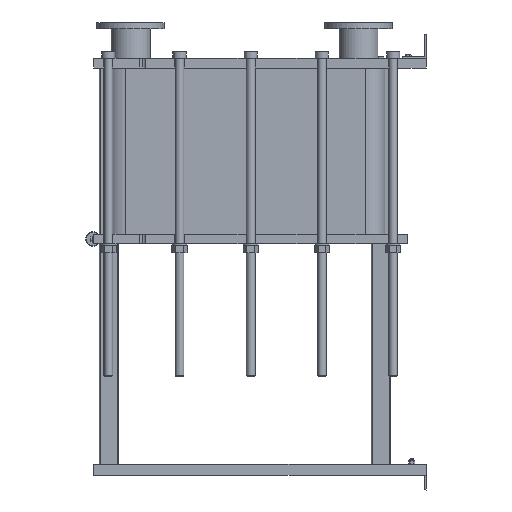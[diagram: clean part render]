
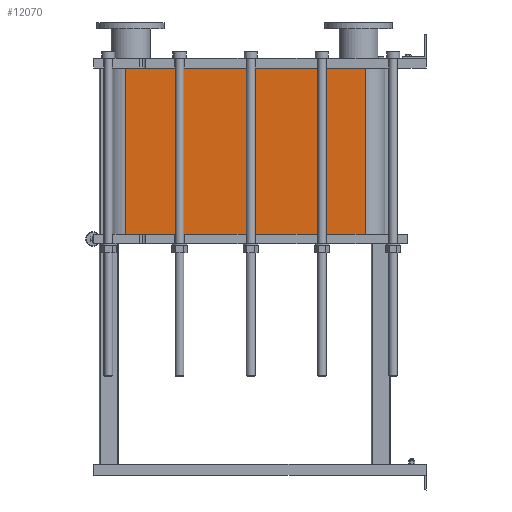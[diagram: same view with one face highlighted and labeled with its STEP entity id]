
A CAD part, left-side view. The second image highlights one B-rep face of the part: STEP entity #12070.
In plain terms, the highlighted planar face has unit normal (-1, 0, 0).
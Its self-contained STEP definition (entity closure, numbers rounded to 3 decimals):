
#1064=LINE('',#21140,#2164);
#1065=LINE('',#21144,#2165);
#1066=LINE('',#21146,#2166);
#1067=LINE('',#21147,#2167);
#2164=VECTOR('',#15790,10.);
#2165=VECTOR('',#15795,10.);
#2166=VECTOR('',#15796,10.);
#2167=VECTOR('',#15797,10.);
#3304=FACE_OUTER_BOUND('',#4091,.T.);
#4091=EDGE_LOOP('',(#9793,#9794,#9795,#9796));
#5677=VERTEX_POINT('',#21137);
#5678=VERTEX_POINT('',#21139);
#5679=VERTEX_POINT('',#21143);
#5680=VERTEX_POINT('',#21145);
#7118=EDGE_CURVE('',#5678,#5677,#1064,.T.);
#7120=EDGE_CURVE('',#5677,#5679,#1065,.T.);
#7121=EDGE_CURVE('',#5680,#5679,#1066,.T.);
#7122=EDGE_CURVE('',#5680,#5678,#1067,.T.);
#9793=ORIENTED_EDGE('',*,*,#7120,.T.);
#9794=ORIENTED_EDGE('',*,*,#7121,.F.);
#9795=ORIENTED_EDGE('',*,*,#7122,.T.);
#9796=ORIENTED_EDGE('',*,*,#7118,.T.);
#11441=PLANE('',#13191);
#12070=ADVANCED_FACE('',(#3304),#11441,.T.);
#13191=AXIS2_PLACEMENT_3D('',#21142,#15793,#15794);
#15790=DIRECTION('',(0.,0.,-1.));
#15793=DIRECTION('center_axis',(-1.,0.,0.));
#15794=DIRECTION('ref_axis',(0.,1.,0.));
#15795=DIRECTION('',(0.,-1.,0.));
#15796=DIRECTION('',(0.,0.,-1.));
#15797=DIRECTION('',(0.,1.,0.));
#21137=CARTESIAN_POINT('',(-248.152,1243.818,-686.55));
#21139=CARTESIAN_POINT('',(-248.152,1243.818,0.));
#21140=CARTESIAN_POINT('',(-248.152,1243.818,0.));
#21142=CARTESIAN_POINT('Origin',(-248.152,251.818,0.));
#21143=CARTESIAN_POINT('',(-248.152,251.818,-686.55));
#21144=CARTESIAN_POINT('',(-248.152,499.818,-686.55));
#21145=CARTESIAN_POINT('',(-248.152,251.818,0.));
#21146=CARTESIAN_POINT('',(-248.152,251.818,0.));
#21147=CARTESIAN_POINT('',(-248.152,251.818,0.));
